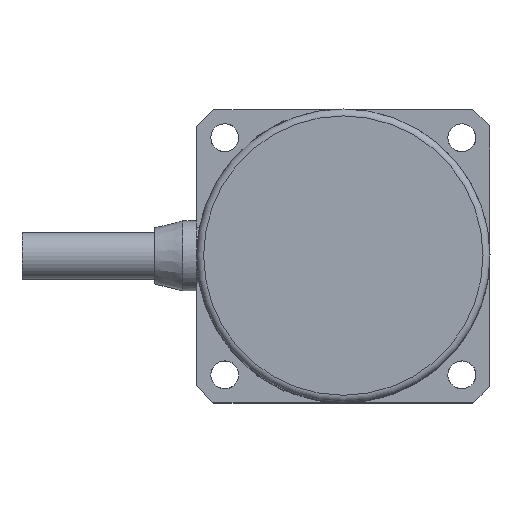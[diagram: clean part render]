
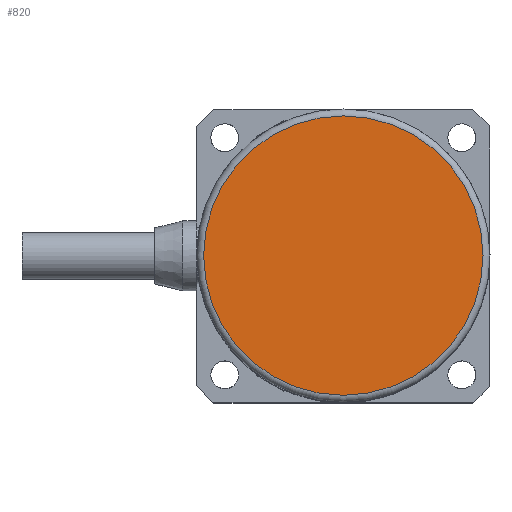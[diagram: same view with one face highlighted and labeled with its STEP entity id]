
A CAD part, top view. The second image highlights one B-rep face of the part: STEP entity #820.
In plain terms, the highlighted planar face has unit normal (0, 0, 1) as drawn and (0, 0, -1) by its records, which use the part's own axes.
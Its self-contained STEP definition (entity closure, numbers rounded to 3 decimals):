
#820=ADVANCED_FACE('',(#1643),#1644,.F.);
#1643=FACE_OUTER_BOUND('',#2575,.T.);
#1644=PLANE('',#2576);
#2575=EDGE_LOOP('',(#3926));
#2576=AXIS2_PLACEMENT_3D('',#3927,#3928,#3929);
#3926=ORIENTED_EDGE('',*,*,#5213,.T.);
#3927=CARTESIAN_POINT('',(0.0,0.0,0.0));
#3928=DIRECTION('',(0.0,0.0,1.0));
#3929=DIRECTION('',(1.0,0.0,0.0));
#5213=EDGE_CURVE('',#6059,#6059,#6060,.F.);
#6059=VERTEX_POINT('',#7382);
#6060=CIRCLE('',#7383,10.0);
#7382=CARTESIAN_POINT('',(10.0,0.,0.0));
#7383=AXIS2_PLACEMENT_3D('',#8834,#8835,#8836);
#8834=CARTESIAN_POINT('',(0.0,0.0,0.0));
#8835=DIRECTION('',(0.0,0.0,1.0));
#8836=DIRECTION('',(1.0,0.0,0.0));
